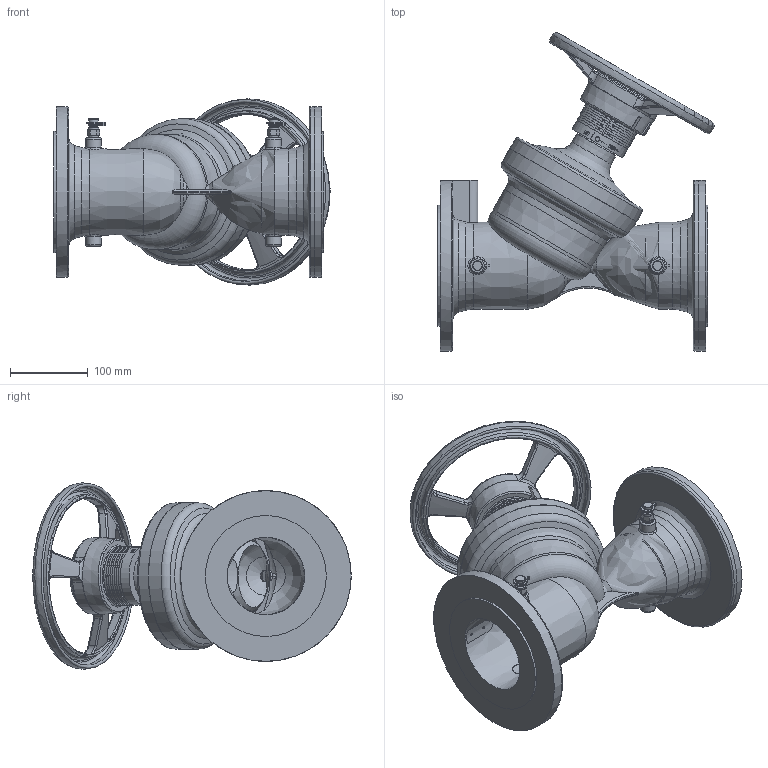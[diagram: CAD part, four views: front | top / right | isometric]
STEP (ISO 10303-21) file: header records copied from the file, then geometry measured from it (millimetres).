
FILE_DESCRIPTION((''),'2;1');
FILE_NAME('P:\Fastrack\53972_CRANE 3D\DM921-941\WORKSPACE\DM921-941\DM931_DN100\DM931_DN100.stp','2011-02-25T15:04:06',('btaylor'),(''),'Autodesk Inventor 2008','Autodesk Inventor 2008','');
FILE_SCHEMA(('AUTOMOTIVE_DESIGN { 1 0 10303 214 1 1 1 1 }'));
Length unit declared in the file: millimetre
Products named in the file (1): DM931_DN100
Bounding box: 355.95 x 410.31 x 239.95 mm (x, y, z)
Volume: 3494930.2 mm3; surface area: 678253.5 mm2
Topology: 1 solids, 1 shells, 935 faces, 2389 edges, 1518 vertices
Faces by surface type: plane 385, bspline 271, cylinder 172, cone 65, torus 42
Full cylindrical faces by diameter (mm): 6 x2, 7.4 x2, 8 x2, 9.5 x6, 11 x2, 12.7 x2, 13.7 x2, 17.3 x1, 17.4 x1, 20 x6, 24 x1, 24.5 x1, 27.4 x1, 28.4 x1, 30 x1, 32.629 x1, 46 x2, 50 x1, 61 x1, 68 x1, 69 x1, 75 x1, 80 x1, 112 x1, 139.6 x1, 140 x1, 156 x2, 220 x2
Entity records: 75616 total; most frequent: CARTESIAN_POINT 54494, ORIENTED_EDGE 4414, DIRECTION 3447, EDGE_CURVE 2207, VERTEX_POINT 1466, AXIS2_PLACEMENT_3D 1274, EDGE_LOOP 1178, STYLED_ITEM 936
